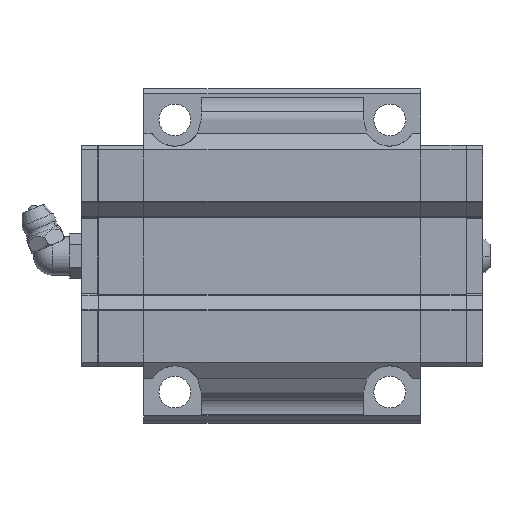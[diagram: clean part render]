
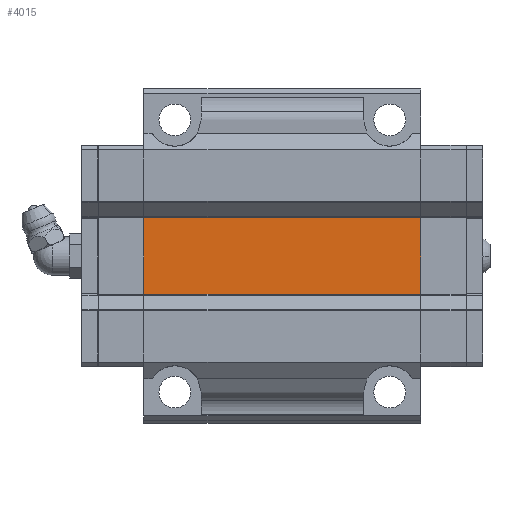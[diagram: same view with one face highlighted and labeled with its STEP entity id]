
A CAD part, front view. The second image highlights one B-rep face of the part: STEP entity #4015.
In plain terms, the highlighted planar face has unit normal (0, -1, 0).
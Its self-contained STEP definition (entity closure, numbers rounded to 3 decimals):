
#276 = CARTESIAN_POINT ( 'NONE',  ( -42., 0., 8.05 ) ) ;
#319 = EDGE_CURVE ( 'NONE', #374, #4211, #4458, .T. ) ;
#374 = VERTEX_POINT ( 'NONE', #3484 ) ;
#2158 = LINE ( 'NONE', #276, #12718 ) ;
#2217 = DIRECTION ( 'NONE',  ( 1., 0., 0. ) ) ;
#2277 = DIRECTION ( 'NONE',  ( -1., 0., 0. ) ) ;
#2304 = VECTOR ( 'NONE', #3464, 1000. ) ;
#2347 = CARTESIAN_POINT ( 'NONE',  ( -42., 0., -8.05 ) ) ;
#2351 = EDGE_LOOP ( 'NONE', ( #12645, #4221, #12115, #11827 ) ) ;
#2454 = CARTESIAN_POINT ( 'NONE',  ( -29., 0., 8.05 ) ) ;
#3316 = FACE_OUTER_BOUND ( 'NONE', #2351, .T. ) ;
#3340 = VERTEX_POINT ( 'NONE', #11505 ) ;
#3464 = DIRECTION ( 'NONE',  ( 1., 0., 0. ) ) ;
#3484 = CARTESIAN_POINT ( 'NONE',  ( -29., 0., -8.05 ) ) ;
#3626 = DIRECTION ( 'NONE',  ( 0., 0., -1. ) ) ;
#3699 = CARTESIAN_POINT ( 'NONE',  ( 29., 0., -5.75 ) ) ;
#4015 = ADVANCED_FACE ( 'NONE', ( #3316 ), #8885, .F. ) ;
#4211 = VERTEX_POINT ( 'NONE', #2454 ) ;
#4221 = ORIENTED_EDGE ( 'NONE', *, *, #10950, .T. ) ;
#4458 = LINE ( 'NONE', #8695, #12938 ) ;
#5020 = EDGE_CURVE ( 'NONE', #4211, #3340, #2158, .T. ) ;
#6688 = LINE ( 'NONE', #3699, #6784 ) ;
#6725 = LINE ( 'NONE', #2347, #2304 ) ;
#6784 = VECTOR ( 'NONE', #3626, 1000. ) ;
#7560 = CARTESIAN_POINT ( 'NONE',  ( 38.5, 0., -11.5 ) ) ;
#7639 = DIRECTION ( 'NONE',  ( 0., 1., 0. ) ) ;
#7662 = DIRECTION ( 'NONE',  ( 0., 0., 1. ) ) ;
#8695 = CARTESIAN_POINT ( 'NONE',  ( -29., 0., -5.75 ) ) ;
#8885 = PLANE ( 'NONE',  #12701 ) ;
#10035 = EDGE_CURVE ( 'NONE', #3340, #11258, #6688, .T. ) ;
#10950 = EDGE_CURVE ( 'NONE', #374, #11258, #6725, .T. ) ;
#11258 = VERTEX_POINT ( 'NONE', #13705 ) ;
#11505 = CARTESIAN_POINT ( 'NONE',  ( 29., 0., 8.05 ) ) ;
#11827 = ORIENTED_EDGE ( 'NONE', *, *, #5020, .F. ) ;
#12115 = ORIENTED_EDGE ( 'NONE', *, *, #10035, .F. ) ;
#12645 = ORIENTED_EDGE ( 'NONE', *, *, #319, .F. ) ;
#12701 = AXIS2_PLACEMENT_3D ( 'NONE', #7560, #7639, #2277 ) ;
#12718 = VECTOR ( 'NONE', #2217, 1000. ) ;
#12938 = VECTOR ( 'NONE', #7662, 1000. ) ;
#13705 = CARTESIAN_POINT ( 'NONE',  ( 29., 0., -8.05 ) ) ;
